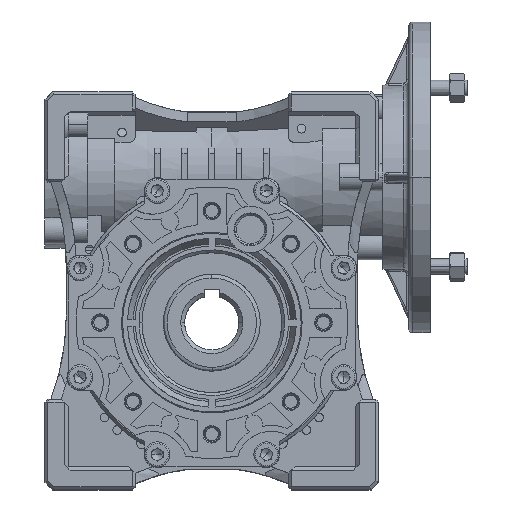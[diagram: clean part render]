
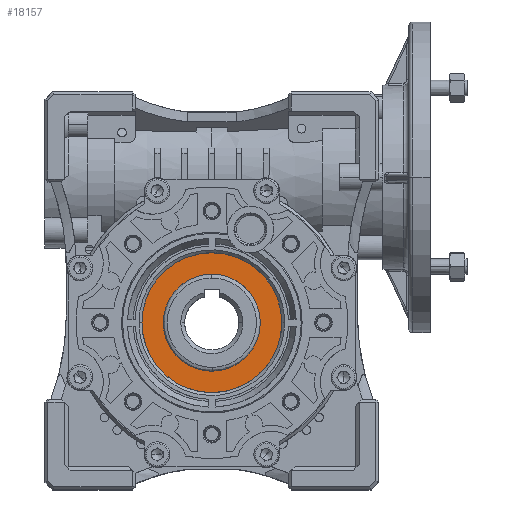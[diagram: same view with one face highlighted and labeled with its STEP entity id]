
A CAD part, top view. The second image highlights one B-rep face of the part: STEP entity #18157.
In plain terms, the highlighted planar face has unit normal (0, 0, 1).
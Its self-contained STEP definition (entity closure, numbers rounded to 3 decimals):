
#618 = CARTESIAN_POINT ( 'NONE',  ( -35.999, -0.002, 60.001 ) ) ;
#2141 = VERTEX_POINT ( 'NONE', #37122 ) ;
#3563 = DIRECTION ( 'NONE',  ( 1., 0., 0. ) ) ;
#4955 = CIRCLE ( 'NONE', #22123, 25. ) ;
#15802 = AXIS2_PLACEMENT_3D ( 'NONE', #85079, #63106, #3563 ) ;
#16534 = EDGE_LOOP ( 'NONE', ( #91089, #67073 ) ) ;
#17120 = DIRECTION ( 'NONE',  ( 0., 0., 1. ) ) ;
#18157 = ADVANCED_FACE ( 'NONE', ( #36689, #57678 ), #96194, .F. ) ;
#22001 = CIRCLE ( 'NONE', #15802, 25. ) ;
#22123 = AXIS2_PLACEMENT_3D ( 'NONE', #89227, #52615, #67744 ) ;
#22185 = EDGE_CURVE ( 'NONE', #28854, #2141, #4955, .T. ) ;
#24935 = DIRECTION ( 'NONE',  ( 1., 0., 0. ) ) ;
#28854 = VERTEX_POINT ( 'NONE', #55082 ) ;
#29373 = DIRECTION ( 'NONE',  ( 0., 1., 0. ) ) ;
#33400 = DIRECTION ( 'NONE',  ( 0., 0., 1. ) ) ;
#36689 = FACE_BOUND ( 'NONE', #94014, .T. ) ;
#37122 = CARTESIAN_POINT ( 'NONE',  ( 25.001, -0.002, 60.001 ) ) ;
#37461 = ORIENTED_EDGE ( 'NONE', *, *, #67117, .F. ) ;
#39538 = CARTESIAN_POINT ( 'NONE',  ( 0.001, -0.002, 60.001 ) ) ;
#45452 = CARTESIAN_POINT ( 'NONE',  ( 36.001, -0.002, 60.001 ) ) ;
#45957 = CIRCLE ( 'NONE', #89542, 36. ) ;
#52615 = DIRECTION ( 'NONE',  ( 0., 0., 1. ) ) ;
#54860 = CARTESIAN_POINT ( 'NONE',  ( 0.001, -0.002, 60.001 ) ) ;
#55082 = CARTESIAN_POINT ( 'NONE',  ( -24.999, -0.002, 60.001 ) ) ;
#55842 = ORIENTED_EDGE ( 'NONE', *, *, #22185, .F. ) ;
#56052 = AXIS2_PLACEMENT_3D ( 'NONE', #54860, #33400, #78760 ) ;
#56465 = EDGE_CURVE ( 'NONE', #67493, #70016, #45957, .T. ) ;
#57678 = FACE_OUTER_BOUND ( 'NONE', #16534, .T. ) ;
#63106 = DIRECTION ( 'NONE',  ( 0., 0., 1. ) ) ;
#64539 = DIRECTION ( 'NONE',  ( 0., 0., -1. ) ) ;
#65411 = CIRCLE ( 'NONE', #56052, 36. ) ;
#67073 = ORIENTED_EDGE ( 'NONE', *, *, #72740, .T. ) ;
#67117 = EDGE_CURVE ( 'NONE', #2141, #28854, #22001, .T. ) ;
#67493 = VERTEX_POINT ( 'NONE', #45452 ) ;
#67744 = DIRECTION ( 'NONE',  ( 1., 0., 0. ) ) ;
#70016 = VERTEX_POINT ( 'NONE', #618 ) ;
#72740 = EDGE_CURVE ( 'NONE', #70016, #67493, #65411, .T. ) ;
#78760 = DIRECTION ( 'NONE',  ( 1., 0., 0. ) ) ;
#80839 = AXIS2_PLACEMENT_3D ( 'NONE', #81100, #64539, #29373 ) ;
#81100 = CARTESIAN_POINT ( 'NONE',  ( 0.001, 24.998, 60.001 ) ) ;
#85079 = CARTESIAN_POINT ( 'NONE',  ( 0.001, -0.002, 60.001 ) ) ;
#89227 = CARTESIAN_POINT ( 'NONE',  ( 0.001, -0.002, 60.001 ) ) ;
#89542 = AXIS2_PLACEMENT_3D ( 'NONE', #39538, #17120, #24935 ) ;
#91089 = ORIENTED_EDGE ( 'NONE', *, *, #56465, .T. ) ;
#94014 = EDGE_LOOP ( 'NONE', ( #37461, #55842 ) ) ;
#96194 = PLANE ( 'NONE',  #80839 ) ;
